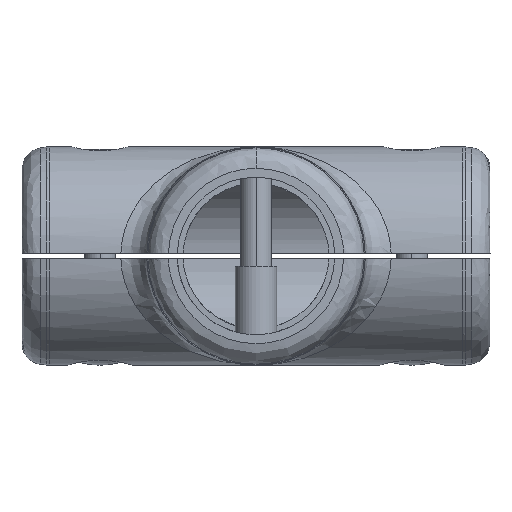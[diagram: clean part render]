
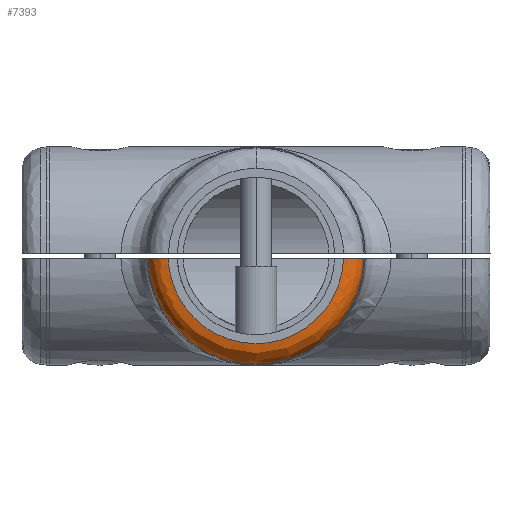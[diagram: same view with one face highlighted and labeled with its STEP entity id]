
A CAD part, front view. The second image highlights one B-rep face of the part: STEP entity #7393.
In plain terms, the highlighted free-form (B-spline) face has degree [3, 3] with [4, 4] control points.
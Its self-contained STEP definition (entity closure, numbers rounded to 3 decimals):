
#8 = ORIENTED_EDGE ( 'NONE', *, *, #6345, .T. ) ;
#199 = CARTESIAN_POINT ( 'NONE',  ( -18.03, 0.173, -0.5 ) ) ;
#235 = CARTESIAN_POINT ( 'NONE',  ( -19.112, 0.699, -0.5 ) ) ;
#240 = EDGE_CURVE ( 'NONE', #2965, #2538, #11507, .T. ) ;
#294 = CARTESIAN_POINT ( 'NONE',  ( 9.638, 0., -16.847 ) ) ;
#571 = CARTESIAN_POINT ( 'NONE',  ( 19.117, 0.702, -0.5 ) ) ;
#614 = CARTESIAN_POINT ( 'NONE',  ( -20.592, 3.513, -41.297 ) ) ;
#1165 = CARTESIAN_POINT ( 'NONE',  ( -19.309, 0.843, -0.5 ) ) ;
#1229 = DIRECTION ( 'NONE',  ( 0., -1., 0. ) ) ;
#1230 = CARTESIAN_POINT ( 'NONE',  ( 0., 0., -16.847 ) ) ;
#1252 = CARTESIAN_POINT ( 'NONE',  ( -16.84, 0., -0.5 ) ) ;
#1543 = CARTESIAN_POINT ( 'NONE',  ( -20.817, 3.513, -0.114 ) ) ;
#1548 = VERTEX_POINT ( 'NONE', #7452 ) ;
#1580 = CARTESIAN_POINT ( 'NONE',  ( 20.811, 3.513, -0.5 ) ) ;
#1615 = CARTESIAN_POINT ( 'NONE',  ( 18.969, 0., -0.104 ) ) ;
#1641 = CARTESIAN_POINT ( 'NONE',  ( -20.811, 3.513, -0.5 ) ) ;
#1759 = CARTESIAN_POINT ( 'NONE',  ( -16.847, 0., -0.092 ) ) ;
#1838 = ORIENTED_EDGE ( 'NONE', *, *, #240, .T. ) ;
#2078 = CARTESIAN_POINT ( 'NONE',  ( -19.672, 1.164, -0.5 ) ) ;
#2219 = CARTESIAN_POINT ( 'NONE',  ( -20.134, 1.717, -0.5 ) ) ;
#2233 = CARTESIAN_POINT ( 'NONE',  ( 0., 0., -16.847 ) ) ;
#2304 = CARTESIAN_POINT ( 'NONE',  ( -20.585, 2.571, -0.5 ) ) ;
#2369 = CARTESIAN_POINT ( 'NONE',  ( 19.31, 0.844, -0.5 ) ) ;
#2538 = VERTEX_POINT ( 'NONE', #2233 ) ;
#2567 = CARTESIAN_POINT ( 'NONE',  ( -18.764, 0., -37.631 ) ) ;
#2595 = VERTEX_POINT ( 'NONE', #1641 ) ;
#2834 = ORIENTED_EDGE ( 'NONE', *, *, #10963, .T. ) ;
#2965 = VERTEX_POINT ( 'NONE', #5429 ) ;
#3021 = CARTESIAN_POINT ( 'NONE',  ( 20.811, 3.513, -0.5 ) ) ;
#3079 = CARTESIAN_POINT ( 'NONE',  ( -16.554, 0., -10.134 ) ) ;
#3220 = CARTESIAN_POINT ( 'NONE',  ( -20.811, 3.513, -0.5 ) ) ;
#3292 = CARTESIAN_POINT ( 'NONE',  ( -18.969, 0., -0.104 ) ) ;
#3333 = CARTESIAN_POINT ( 'NONE',  ( 17.327, 0.022, -0.5 ) ) ;
#3338 = CARTESIAN_POINT ( 'NONE',  ( 20.817, 3.513, -0.114 ) ) ;
#3340 = CIRCLE ( 'NONE', #8666, 20.817 ) ;
#3443 = CARTESIAN_POINT ( 'NONE',  ( 20.336, 1.406, -40.784 ) ) ;
#3600 = CARTESIAN_POINT ( 'NONE',  ( 16.847, 0., -0.092 ) ) ;
#3638 = CARTESIAN_POINT ( 'NONE',  ( -16.665, 0., -33.421 ) ) ;
#3894 = CARTESIAN_POINT ( 'NONE',  ( 16.554, 0., -10.134 ) ) ;
#3969 = CARTESIAN_POINT ( 'NONE',  ( 20.494, 2.352, -0.5 ) ) ;
#4021 = CARTESIAN_POINT ( 'NONE',  ( -19.837, 1.339, -0.5 ) ) ;
#4170 = CARTESIAN_POINT ( 'NONE',  ( -20.73, 3.031, -0.5 ) ) ;
#4193 = CARTESIAN_POINT ( 'NONE',  ( 18.705, 0.453, -0.5 ) ) ;
#4278 = CARTESIAN_POINT ( 'NONE',  ( -20.336, 1.406, -40.784 ) ) ;
#4726 =( BOUNDED_SURFACE ( )  B_SPLINE_SURFACE ( 3, 3, ( 
 ( #3338, #6063, #614, #1543 ),
 ( #7913, #3443, #4278, #10706 ),
 ( #1615, #7989, #2567, #3292 ),
 ( #3600, #11783, #3638, #1759 ) ),
 .UNSPECIFIED., .F., .F., .T. ) 
 B_SPLINE_SURFACE_WITH_KNOTS ( ( 4, 4 ),
 ( 4, 4 ),
 ( 0., 1. ),
 ( 0., 1. ),
 .UNSPECIFIED. ) 
 GEOMETRIC_REPRESENTATION_ITEM ( )  RATIONAL_B_SPLINE_SURFACE ( (
 ( 1., 0.337, 0.337, 1.),
 ( 0.833, 0.281, 0.281, 0.833),
 ( 0.833, 0.281, 0.281, 0.833),
 ( 1., 0.337, 0.337, 1.) ) ) 
 REPRESENTATION_ITEM ( '' )  SURFACE ( )  );
#4761 = CARTESIAN_POINT ( 'NONE',  ( -17.083, 0., -0.5 ) ) ;
#4865 = CARTESIAN_POINT ( 'NONE',  ( -17.323, 0.022, -0.5 ) ) ;
#4982 = FACE_OUTER_BOUND ( 'NONE', #10572, .T. ) ;
#5018 = CARTESIAN_POINT ( 'NONE',  ( -20.782, 3.271, -0.5 ) ) ;
#5196 = B_SPLINE_CURVE_WITH_KNOTS ( 'NONE', 3,
 ( #9384, #4761, #4865, #11131, #199, #7505, #6574, #235, #1165, #2078, #4021, #2219, #5799, #8586, #2304, #4170, #5018, #3220 ),
 .UNSPECIFIED., .F., .F.,
 ( 4, 2, 2, 2, 2, 2, 2, 2, 4 ),
 ( 0., 0.001, 0.001, 0.002, 0.003, 0.004, 0.004, 0.005, 0.006 ),
 .UNSPECIFIED. ) ;
#5298 = CARTESIAN_POINT ( 'NONE',  ( 16.84, 0., -0.5 ) ) ;
#5315 = CARTESIAN_POINT ( 'NONE',  ( 16.84, 0., -0.5 ) ) ;
#5429 = CARTESIAN_POINT ( 'NONE',  ( 16.84, 0., -0.5 ) ) ;
#5731 = EDGE_CURVE ( 'NONE', #2595, #7303, #3340, .T. ) ;
#5799 = CARTESIAN_POINT ( 'NONE',  ( -20.268, 1.923, -0.5 ) ) ;
#5891 = EDGE_CURVE ( 'NONE', #7303, #2965, #11276, .T. ) ;
#5970 =( BOUNDED_CURVE ( )  B_SPLINE_CURVE ( 3, ( #8518, #10375, #3079, #1252 ),
 .UNSPECIFIED., .F., .F. ) 
 B_SPLINE_CURVE_WITH_KNOTS ( ( 4, 4 ),
 ( 0., 1. ),
 .UNSPECIFIED. ) 
 CURVE ( )  GEOMETRIC_REPRESENTATION_ITEM ( )  RATIONAL_B_SPLINE_CURVE ( ( 1., 0.812, 0.812, 1. ) ) 
 REPRESENTATION_ITEM ( '' )  );
#6021 = CARTESIAN_POINT ( 'NONE',  ( 20.137, 1.721, -0.5 ) ) ;
#6063 = CARTESIAN_POINT ( 'NONE',  ( 20.592, 3.513, -41.297 ) ) ;
#6345 = EDGE_CURVE ( 'NONE', #2538, #1548, #5970, .T. ) ;
#6574 = CARTESIAN_POINT ( 'NONE',  ( -18.7, 0.451, -0.5 ) ) ;
#7006 = CARTESIAN_POINT ( 'NONE',  ( 17.083, 0., -0.5 ) ) ;
#7303 = VERTEX_POINT ( 'NONE', #1580 ) ;
#7393 = ADVANCED_FACE ( 'NONE', ( #4982 ), #4726, .T. ) ;
#7452 = CARTESIAN_POINT ( 'NONE',  ( -16.84, 0., -0.5 ) ) ;
#7505 = CARTESIAN_POINT ( 'NONE',  ( -18.484, 0.345, -0.5 ) ) ;
#7534 = ORIENTED_EDGE ( 'NONE', *, *, #5731, .T. ) ;
#7671 = CARTESIAN_POINT ( 'NONE',  ( 20.782, 3.271, -0.5 ) ) ;
#7751 = CARTESIAN_POINT ( 'NONE',  ( 20.268, 1.923, -0.5 ) ) ;
#7829 = CARTESIAN_POINT ( 'NONE',  ( 19.84, 1.343, -0.5 ) ) ;
#7853 = ORIENTED_EDGE ( 'NONE', *, *, #5891, .T. ) ;
#7869 = CARTESIAN_POINT ( 'NONE',  ( 18.033, 0.174, -0.5 ) ) ;
#7913 = CARTESIAN_POINT ( 'NONE',  ( 20.558, 1.406, -0.112 ) ) ;
#7989 = CARTESIAN_POINT ( 'NONE',  ( 18.764, 0., -37.631 ) ) ;
#8493 = CARTESIAN_POINT ( 'NONE',  ( 20.73, 3.035, -0.5 ) ) ;
#8518 = CARTESIAN_POINT ( 'NONE',  ( 0., 0., -16.847 ) ) ;
#8532 = DIRECTION ( 'NONE',  ( 0., 0., 1. ) ) ;
#8586 = CARTESIAN_POINT ( 'NONE',  ( -20.493, 2.35, -0.5 ) ) ;
#8666 = AXIS2_PLACEMENT_3D ( 'NONE', #10472, #1229, #8532 ) ;
#8773 = CARTESIAN_POINT ( 'NONE',  ( 17.802, 0.11, -0.5 ) ) ;
#9384 = CARTESIAN_POINT ( 'NONE',  ( -16.84, 0., -0.5 ) ) ;
#9404 = CARTESIAN_POINT ( 'NONE',  ( 20.587, 2.577, -0.5 ) ) ;
#10375 = CARTESIAN_POINT ( 'NONE',  ( -9.638, 0., -16.847 ) ) ;
#10472 = CARTESIAN_POINT ( 'NONE',  ( 0., 3.513, 0. ) ) ;
#10572 = EDGE_LOOP ( 'NONE', ( #2834, #7534, #7853, #1838, #8 ) ) ;
#10631 = CARTESIAN_POINT ( 'NONE',  ( 18.484, 0.345, -0.5 ) ) ;
#10706 = CARTESIAN_POINT ( 'NONE',  ( -20.558, 1.406, -0.112 ) ) ;
#10963 = EDGE_CURVE ( 'NONE', #1548, #2595, #5196, .T. ) ;
#11131 = CARTESIAN_POINT ( 'NONE',  ( -17.796, 0.108, -0.5 ) ) ;
#11276 = B_SPLINE_CURVE_WITH_KNOTS ( 'NONE', 3,
 ( #3021, #7671, #8493, #9404, #3969, #7751, #6021, #7829, #11423, #2369, #571, #4193, #10631, #7869, #8773, #3333, #7006, #5315 ),
 .UNSPECIFIED., .F., .F.,
 ( 4, 2, 2, 2, 2, 2, 2, 2, 4 ),
 ( 0., 0.001, 0.001, 0.002, 0.003, 0.004, 0.004, 0.005, 0.006 ),
 .UNSPECIFIED. ) ;
#11423 = CARTESIAN_POINT ( 'NONE',  ( 19.673, 1.165, -0.5 ) ) ;
#11507 =( BOUNDED_CURVE ( )  B_SPLINE_CURVE ( 3, ( #5298, #3894, #294, #1230 ),
 .UNSPECIFIED., .F., .F. ) 
 B_SPLINE_CURVE_WITH_KNOTS ( ( 4, 4 ),
 ( 0., 1. ),
 .UNSPECIFIED. ) 
 CURVE ( )  GEOMETRIC_REPRESENTATION_ITEM ( )  RATIONAL_B_SPLINE_CURVE ( ( 1., 0.812, 0.812, 1. ) ) 
 REPRESENTATION_ITEM ( '' )  );
#11783 = CARTESIAN_POINT ( 'NONE',  ( 16.665, 0., -33.421 ) ) ;
